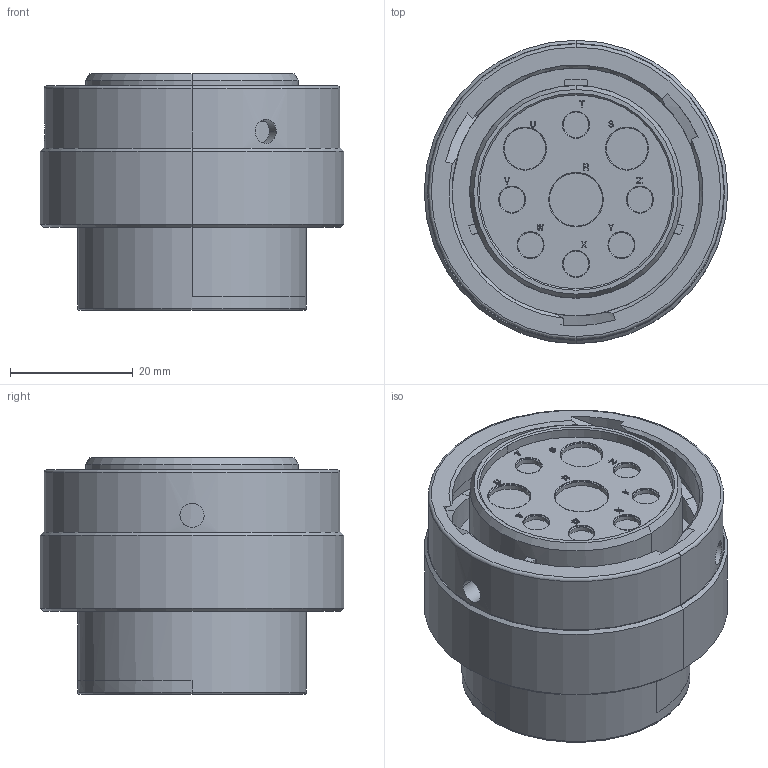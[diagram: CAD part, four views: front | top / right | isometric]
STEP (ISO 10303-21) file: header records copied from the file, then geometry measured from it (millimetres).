
FILE_DESCRIPTION((''),'2;1');
FILE_NAME('C-HDP26-24-9SE','2013-06-27T',('workeradm'),('Tyco Electronics Ltd.'),'PRO/ENGINEER BY PARAMETRIC TECHNOLOGY CORPORATION, 2011490','PRO/ENGINEER BY PARAMETRIC TECHNOLOGY CORPORATION, 2011490','');
FILE_SCHEMA(('AUTOMOTIVE_DESIGN { 1 0 10303 214 1 1 1 1 }'));
Length unit declared in the file: millimetre
Products named in the file (1): C-HDP26-24-9SE
Bounding box: 49.53 x 49.53 x 38.63 mm (x, y, z)
Volume: 45596.5 mm3; surface area: 14827.2 mm2
Topology: 1 solids, 1 shells, 418 faces, 1063 edges, 691 vertices
Faces by surface type: plane 231, cylinder 116, bspline 34, cone 29, torus 8
Entity records: 14828 total; most frequent: CARTESIAN_POINT 4455, ORIENTED_EDGE 2126, DIRECTION 1978, EDGE_CURVE 1063, VECTOR 706, LINE 706, VERTEX_POINT 691, AXIS2_PLACEMENT_3D 636
